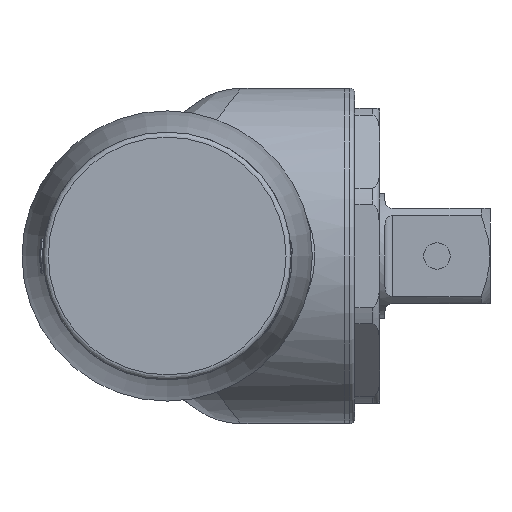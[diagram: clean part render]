
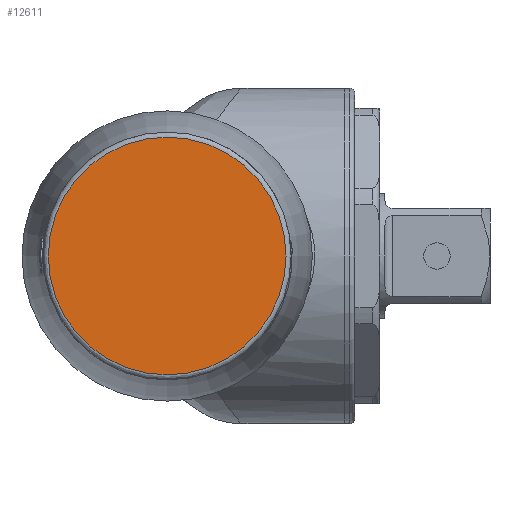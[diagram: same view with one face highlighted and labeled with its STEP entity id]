
A CAD part, left-side view. The second image highlights one B-rep face of the part: STEP entity #12611.
In plain terms, the highlighted planar face has unit normal (-1, 0, 0).
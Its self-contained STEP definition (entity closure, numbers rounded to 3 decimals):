
#3995 = CARTESIAN_POINT ( 'NONE',  ( -556.955, 0., 0. ) ) ;
#4130 = DIRECTION ( 'NONE',  ( -1., 0., 0. ) ) ;
#6261 = CARTESIAN_POINT ( 'NONE',  ( -556.955, 0., 23.75 ) ) ;
#12611 = ADVANCED_FACE ( 'NONE', ( #35121 ), #30976, .T. ) ;
#13741 = DIRECTION ( 'NONE',  ( 0., 0., 1. ) ) ;
#14573 = AXIS2_PLACEMENT_3D ( 'NONE', #3995, #4130, #15012 ) ;
#15012 = DIRECTION ( 'NONE',  ( 0., 0., 1. ) ) ;
#16667 = EDGE_LOOP ( 'NONE', ( #37105 ) ) ;
#16719 = CARTESIAN_POINT ( 'NONE',  ( -556.955, 0., 0. ) ) ;
#20863 = VERTEX_POINT ( 'NONE', #6261 ) ;
#30976 = PLANE ( 'NONE',  #14573 ) ;
#34591 = AXIS2_PLACEMENT_3D ( 'NONE', #16719, #35993, #13741 ) ;
#35121 = FACE_OUTER_BOUND ( 'NONE', #16667, .T. ) ;
#35993 = DIRECTION ( 'NONE',  ( -1., 0., 0. ) ) ;
#37105 = ORIENTED_EDGE ( 'NONE', *, *, #40947, .T. ) ;
#38061 = CIRCLE ( 'NONE', #34591, 23.75 ) ;
#40947 = EDGE_CURVE ( 'NONE', #20863, #20863, #38061, .T. ) ;
